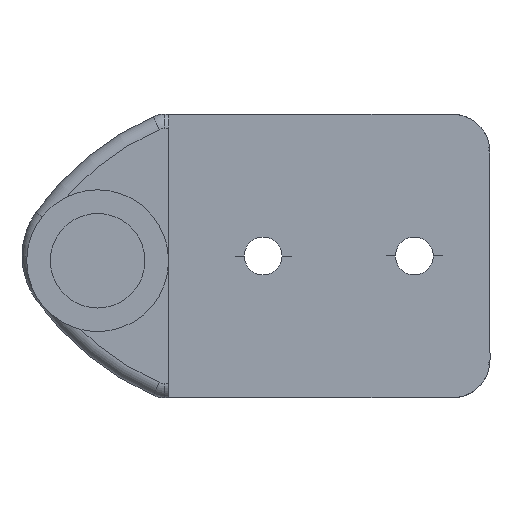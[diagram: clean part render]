
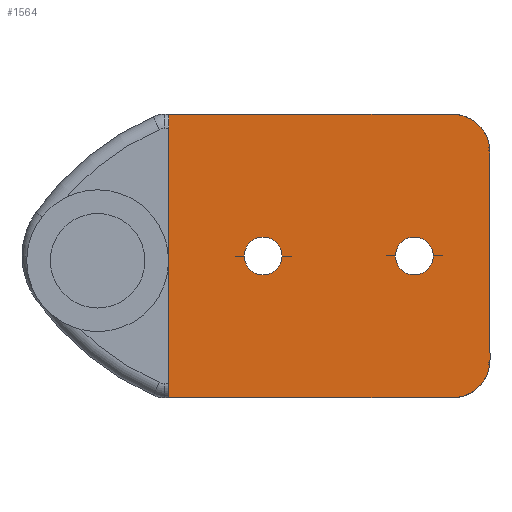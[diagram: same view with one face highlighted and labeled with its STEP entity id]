
A CAD part, front view. The second image highlights one B-rep face of the part: STEP entity #1564.
In plain terms, the highlighted planar face has unit normal (0, -1, 0).
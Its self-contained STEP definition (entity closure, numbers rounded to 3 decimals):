
#59 = AXIS2_PLACEMENT_3D ( 'NONE', #2075, #2074, #2073 ) ;
#60 = AXIS2_PLACEMENT_3D ( 'NONE', #2137, #2135, #2134 ) ;
#61 = AXIS2_PLACEMENT_3D ( 'NONE', #2140, #2139, #2138 ) ;
#63 = AXIS2_PLACEMENT_3D ( 'NONE', #1670, #1669, #1668 ) ;
#65 = AXIS2_PLACEMENT_3D ( 'NONE', #1715, #1714, #1713 ) ;
#70 = EDGE_CURVE ( 'NONE', #1503, #1493, #2897, .T. ) ;
#103 = AXIS2_PLACEMENT_3D ( 'NONE', #3221, #3220, #3219 ) ;
#167 = AXIS2_PLACEMENT_3D ( 'NONE', #783, #782, #781 ) ;
#216 = EDGE_CURVE ( 'NONE', #1493, #1523, #2861, .T. ) ;
#781 = DIRECTION ( 'NONE',  ( -1., 0., 0. ) ) ;
#782 = DIRECTION ( 'NONE',  ( 0., -1., 0. ) ) ;
#783 = CARTESIAN_POINT ( 'NONE',  ( 37.5, 347., -10.5 ) ) ;
#785 = PLANE ( 'NONE',  #167 ) ;
#1155 = CARTESIAN_POINT ( 'NONE',  ( 15.5, 347., 0.5 ) ) ;
#1172 = CARTESIAN_POINT ( 'NONE',  ( 37.5, 347., 15.5 ) ) ;
#1178 = CARTESIAN_POINT ( 'NONE',  ( 41.5, 347., -10.5 ) ) ;
#1192 = CARTESIAN_POINT ( 'NONE',  ( 7.5, 347., -14.5 ) ) ;
#1202 = CARTESIAN_POINT ( 'NONE',  ( 7.5, 347., 15.5 ) ) ;
#1205 = CARTESIAN_POINT ( 'NONE',  ( 41.5, 347., 11.5 ) ) ;
#1213 = CARTESIAN_POINT ( 'NONE',  ( 31.5, 347., 0.5 ) ) ;
#1221 = CARTESIAN_POINT ( 'NONE',  ( 37.5, 347., -14.5 ) ) ;
#1230 = CARTESIAN_POINT ( 'NONE',  ( 19.5, 347., 0.5 ) ) ;
#1245 = CARTESIAN_POINT ( 'NONE',  ( 35.5, 347., 0.5 ) ) ;
#1375 = DIRECTION ( 'NONE',  ( 1., 0., 0. ) ) ;
#1376 = CARTESIAN_POINT ( 'NONE',  ( 37.5, 347., 15.5 ) ) ;
#1419 = DIRECTION ( 'NONE',  ( 0., 0., 1. ) ) ;
#1420 = CARTESIAN_POINT ( 'NONE',  ( 7.5, 347., 15.5 ) ) ;
#1450 = VERTEX_POINT ( 'NONE', #1245 ) ;
#1465 = VERTEX_POINT ( 'NONE', #1230 ) ;
#1474 = VERTEX_POINT ( 'NONE', #1221 ) ;
#1482 = VERTEX_POINT ( 'NONE', #1213 ) ;
#1490 = VERTEX_POINT ( 'NONE', #1205 ) ;
#1493 = VERTEX_POINT ( 'NONE', #1202 ) ;
#1503 = VERTEX_POINT ( 'NONE', #1192 ) ;
#1517 = VERTEX_POINT ( 'NONE', #1178 ) ;
#1523 = VERTEX_POINT ( 'NONE', #1172 ) ;
#1540 = VERTEX_POINT ( 'NONE', #1155 ) ;
#1564 = ADVANCED_FACE ( 'NONE', ( #2924, #2884, #2883 ), #785, .T. ) ;
#1668 = DIRECTION ( 'NONE',  ( -1., 0., 0. ) ) ;
#1669 = DIRECTION ( 'NONE',  ( 0., 1., 0. ) ) ;
#1670 = CARTESIAN_POINT ( 'NONE',  ( 37.5, 347., 11.5 ) ) ;
#1713 = DIRECTION ( 'NONE',  ( -1., 0., 0. ) ) ;
#1714 = DIRECTION ( 'NONE',  ( 0., 1., 0. ) ) ;
#1715 = CARTESIAN_POINT ( 'NONE',  ( 17.5, 347., 0.5 ) ) ;
#1958 = DIRECTION ( 'NONE',  ( -1., 0., 0. ) ) ;
#1960 = CARTESIAN_POINT ( 'NONE',  ( 7.5, 347., -14.5 ) ) ;
#2073 = DIRECTION ( 'NONE',  ( -1., 0., 0. ) ) ;
#2074 = DIRECTION ( 'NONE',  ( 0., 1., 0. ) ) ;
#2075 = CARTESIAN_POINT ( 'NONE',  ( 37.5, 347., -10.5 ) ) ;
#2134 = DIRECTION ( 'NONE',  ( -1., 0., 0. ) ) ;
#2135 = DIRECTION ( 'NONE',  ( 0., 1., 0. ) ) ;
#2137 = CARTESIAN_POINT ( 'NONE',  ( 33.5, 347., 0.5 ) ) ;
#2138 = DIRECTION ( 'NONE',  ( -1., 0., 0. ) ) ;
#2139 = DIRECTION ( 'NONE',  ( 0., 1., 0. ) ) ;
#2140 = CARTESIAN_POINT ( 'NONE',  ( 17.5, 347., 0.5 ) ) ;
#2149 = DIRECTION ( 'NONE',  ( 0., 0., -1. ) ) ;
#2150 = CARTESIAN_POINT ( 'NONE',  ( 41.5, 347., -10.5 ) ) ;
#2165 = EDGE_CURVE ( 'NONE', #1482, #1450, #2461, .T. ) ;
#2209 = EDGE_CURVE ( 'NONE', #1540, #1465, #2410, .T. ) ;
#2218 = EDGE_CURVE ( 'NONE', #1523, #1490, #2403, .T. ) ;
#2221 = EDGE_CURVE ( 'NONE', #1490, #1517, #2401, .T. ) ;
#2225 = EDGE_CURVE ( 'NONE', #1465, #1540, #2394, .T. ) ;
#2226 = EDGE_CURVE ( 'NONE', #1450, #1482, #2393, .T. ) ;
#2239 = EDGE_CURVE ( 'NONE', #1517, #1474, #2379, .T. ) ;
#2264 = EDGE_CURVE ( 'NONE', #1474, #1503, #2353, .T. ) ;
#2351 = VECTOR ( 'NONE', #1958, 1000. ) ;
#2353 = LINE ( 'NONE', #1960, #2351 ) ;
#2379 = CIRCLE ( 'NONE', #59, 4. ) ;
#2393 = CIRCLE ( 'NONE', #60, 2. ) ;
#2394 = CIRCLE ( 'NONE', #61, 2. ) ;
#2400 = VECTOR ( 'NONE', #2149, 1000. ) ;
#2401 = LINE ( 'NONE', #2150, #2400 ) ;
#2403 = CIRCLE ( 'NONE', #63, 4. ) ;
#2410 = CIRCLE ( 'NONE', #65, 2. ) ;
#2461 = CIRCLE ( 'NONE', #103, 2. ) ;
#2658 = ORIENTED_EDGE ( 'NONE', *, *, #70, .F. ) ;
#2659 = ORIENTED_EDGE ( 'NONE', *, *, #2226, .T. ) ;
#2694 = ORIENTED_EDGE ( 'NONE', *, *, #2218, .F. ) ;
#2735 = ORIENTED_EDGE ( 'NONE', *, *, #2221, .F. ) ;
#2749 = ORIENTED_EDGE ( 'NONE', *, *, #2239, .F. ) ;
#2753 = ORIENTED_EDGE ( 'NONE', *, *, #2264, .F. ) ;
#2769 = ORIENTED_EDGE ( 'NONE', *, *, #2165, .T. ) ;
#2784 = VECTOR ( 'NONE', #1419, 1000. ) ;
#2789 = ORIENTED_EDGE ( 'NONE', *, *, #216, .F. ) ;
#2802 = EDGE_LOOP ( 'NONE', ( #2789, #2658, #2753, #2749, #2735, #2694 ) ) ;
#2815 = ORIENTED_EDGE ( 'NONE', *, *, #2225, .T. ) ;
#2826 = ORIENTED_EDGE ( 'NONE', *, *, #2209, .T. ) ;
#2858 = VECTOR ( 'NONE', #1375, 1000. ) ;
#2861 = LINE ( 'NONE', #1376, #2858 ) ;
#2883 = FACE_OUTER_BOUND ( 'NONE', #2802, .T. ) ;
#2884 = FACE_BOUND ( 'NONE', #2940, .T. ) ;
#2897 = LINE ( 'NONE', #1420, #2784 ) ;
#2924 = FACE_BOUND ( 'NONE', #2953, .T. ) ;
#2940 = EDGE_LOOP ( 'NONE', ( #2659, #2769 ) ) ;
#2953 = EDGE_LOOP ( 'NONE', ( #2815, #2826 ) ) ;
#3219 = DIRECTION ( 'NONE',  ( -1., 0., 0. ) ) ;
#3220 = DIRECTION ( 'NONE',  ( 0., 1., 0. ) ) ;
#3221 = CARTESIAN_POINT ( 'NONE',  ( 33.5, 347., 0.5 ) ) ;
